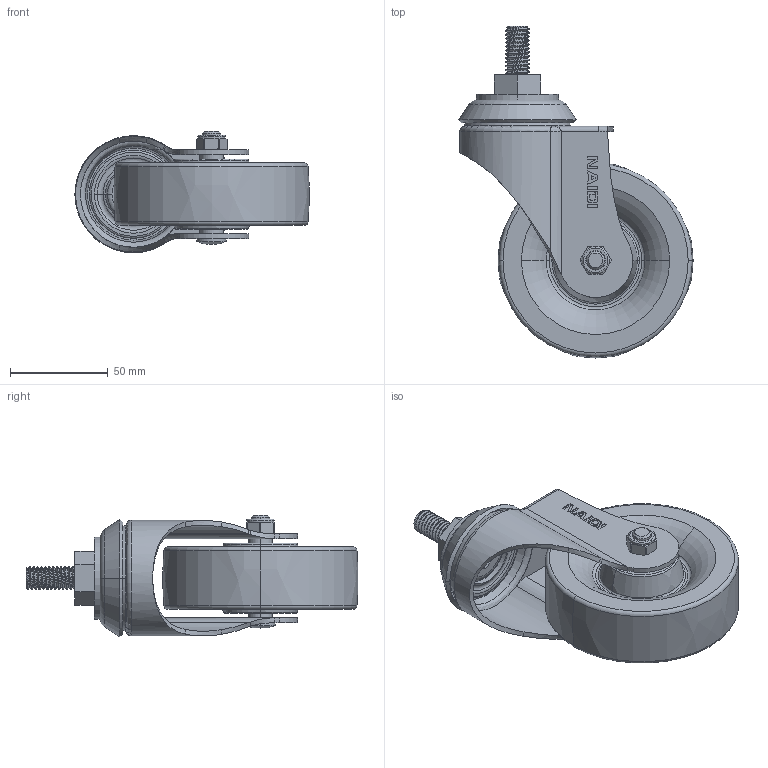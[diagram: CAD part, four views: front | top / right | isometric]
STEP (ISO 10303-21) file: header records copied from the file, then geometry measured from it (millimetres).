
FILE_DESCRIPTION((''),'2;1');
FILE_NAME('B55134_ASM','2024-08-13T',('Lenovo'),(''),'PRO/ENGINEER BY PARAMETRIC TECHNOLOGY CORPORATION, 2010280','PRO/ENGINEER BY PARAMETRIC TECHNOLOGY CORPORATION, 2010280','');
FILE_SCHEMA(('CONFIG_CONTROL_DESIGN'));
Length unit declared in the file: millimetre
Products named in the file (8): B5514-311; 570-03A; B554-986; 5010-053_M12; 500-54; 570-33; 570-34; B55134_ASM
Assembly tree (7 placements, depth 2):
  B55134_ASM
    B5514-311
    570-03A
    B554-986
    5010-053_M12
    500-54
    570-33
    570-34
Bounding box: 119.91 x 169.93 x 62.25 mm (x, y, z)
Volume: 273579.1 mm3; surface area: 75952.1 mm2
Topology: 7 solids, 7 shells, 307 faces, 730 edges, 451 vertices
Faces by surface type: plane 101, cylinder 76, torus 51, bspline 36, cone 35, extrusion 6, sphere 2
Entity records: 13608 total; most frequent: CARTESIAN_POINT 6532, ORIENTED_EDGE 1456, DIRECTION 1407, EDGE_CURVE 728, AXIS2_PLACEMENT_3D 545, VERTEX_POINT 451, EDGE_LOOP 337, VECTOR 317
